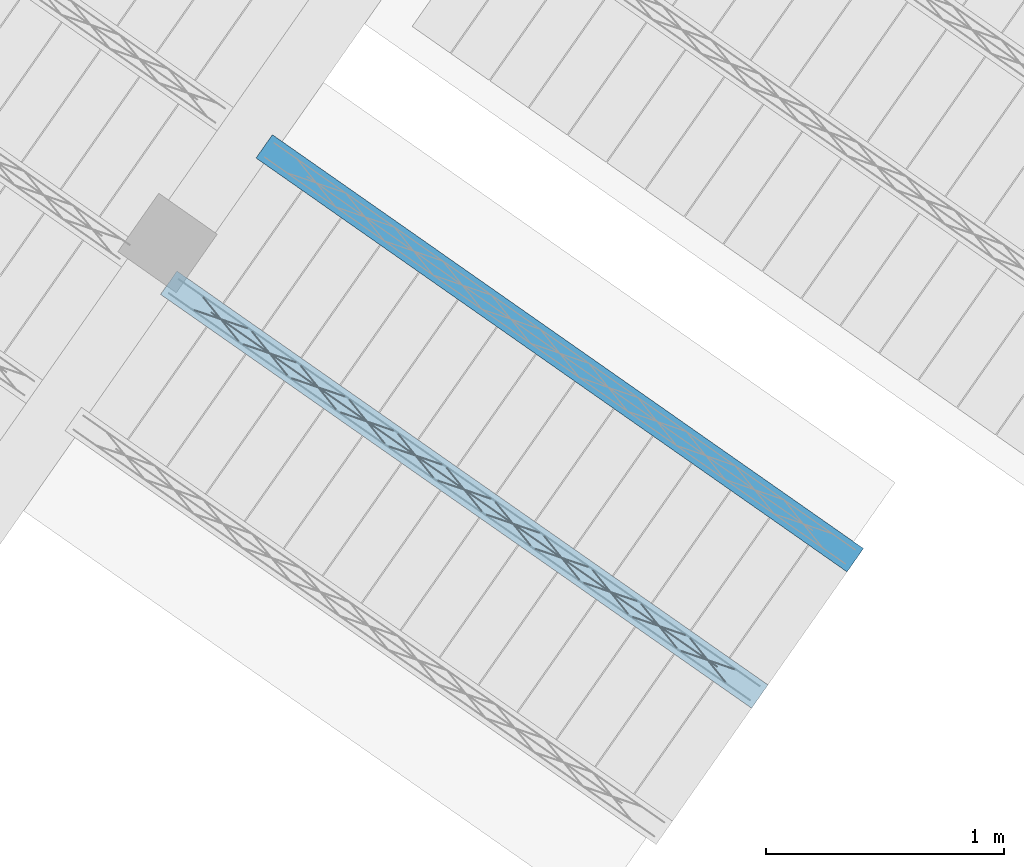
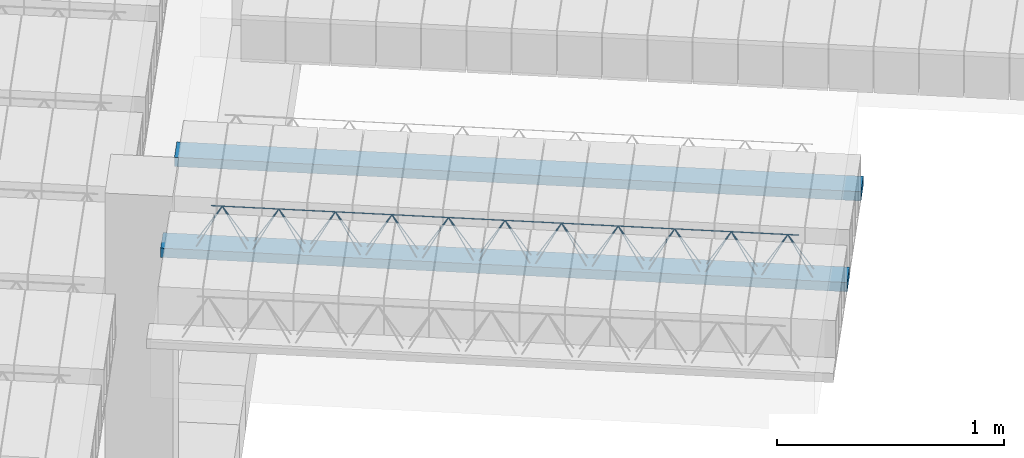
# One storey, part 7 of 80: 2 beams.
"""IFC2X3 building model written with IfcOpenShell, lengths in metres."""

from ifc_helpers import new_model, entity, si_unit, converted_unit, derived_unit, direction, frame, frame_2d, origin, origin_2d_with_axis, place, context, subcontext, project, spatial, rectangle, circle, extrude, material, type_object, element, save


model = new_model("IFC2X3")

# Units and contexts
model_context = context("Model", 3, precision=1e-05, world=origin(), true_north=direction((6.123031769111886e-17, 1.0)))
body_context = subcontext(model_context, "Body", "Model", "MODEL_VIEW")
ifc_project = project(units=[si_unit("LENGTHUNIT", "METRE"), si_unit("AREAUNIT", "SQUARE_METRE"), si_unit("VOLUMEUNIT", "CUBIC_METRE"), converted_unit("PLANEANGLEUNIT", "DEGREE", entity("IfcPlaneAngleMeasure", 0.017453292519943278), si_unit("PLANEANGLEUNIT", "RADIAN"), dimensions=[0, 0, 0, 0, 0, 0, 0]), si_unit("MASSUNIT", "GRAM", prefix="KILO"), derived_unit("MASSDENSITYUNIT", [(si_unit("MASSUNIT", "GRAM", prefix="KILO"), 1), (si_unit("LENGTHUNIT", "METRE"), -3)]), derived_unit("IONCONCENTRATIONUNIT", [(si_unit("MASSUNIT", "GRAM", prefix="KILO"), 1), (si_unit("LENGTHUNIT", "METRE"), -3)]), derived_unit("MOMENTOFINERTIAUNIT", [(si_unit("LENGTHUNIT", "METRE"), 4)]), si_unit("TIMEUNIT", "SECOND"), si_unit("FREQUENCYUNIT", "HERTZ"), si_unit("THERMODYNAMICTEMPERATUREUNIT", "DEGREE_CELSIUS"), derived_unit("THERMALTRANSMITTANCEUNIT", [(si_unit("MASSUNIT", "GRAM", prefix="KILO"), 1), (si_unit("THERMODYNAMICTEMPERATUREUNIT", "KELVIN"), -1), (si_unit("TIMEUNIT", "SECOND"), -3)]), derived_unit("THERMALCONDUCTANCEUNIT", [(si_unit("MASSUNIT", "GRAM", prefix="KILO"), 1), (si_unit("THERMODYNAMICTEMPERATUREUNIT", "KELVIN"), -1), (si_unit("TIMEUNIT", "SECOND"), -3), (si_unit("LENGTHUNIT", "METRE"), 1)]), derived_unit("VOLUMETRICFLOWRATEUNIT", [(si_unit("LENGTHUNIT", "METRE", prefix="DECI"), 3), (si_unit("TIMEUNIT", "SECOND"), -1)]), derived_unit("MASSFLOWRATEUNIT", [(si_unit("MASSUNIT", "GRAM", prefix="KILO"), 1), (si_unit("TIMEUNIT", "SECOND"), -1)]), derived_unit("ROTATIONALFREQUENCYUNIT", [(si_unit("TIMEUNIT", "SECOND"), -1)]), si_unit("ELECTRICCURRENTUNIT", "AMPERE"), si_unit("ELECTRICVOLTAGEUNIT", "VOLT"), si_unit("POWERUNIT", "WATT"), si_unit("FORCEUNIT", "NEWTON", prefix="KILO"), si_unit("ILLUMINANCEUNIT", "LUX"), si_unit("LUMINOUSFLUXUNIT", "LUMEN"), si_unit("LUMINOUSINTENSITYUNIT", "CANDELA"), si_unit("ENERGYUNIT", "JOULE"), derived_unit("USERDEFINED", [(si_unit("MASSUNIT", "GRAM", prefix="KILO"), -1), (si_unit("LENGTHUNIT", "METRE"), -2), (si_unit("TIMEUNIT", "SECOND"), 3), (si_unit("LUMINOUSFLUXUNIT", "LUMEN"), 1)]), derived_unit("USERDEFINED", [(si_unit("MASSUNIT", "GRAM", prefix="KILO"), 1), (si_unit("TIMEUNIT", "SECOND"), -3), (si_unit("LENGTHUNIT", "METRE"), 3), (si_unit("ELECTRICCURRENTUNIT", "AMPERE"), -2)]), derived_unit("SOUNDPOWERUNIT", [(si_unit("MASSUNIT", "GRAM", prefix="KILO"), 1), (si_unit("TIMEUNIT", "SECOND"), -3), (si_unit("LENGTHUNIT", "METRE"), 2)]), derived_unit("SOUNDPRESSUREUNIT", [(si_unit("MASSUNIT", "GRAM", prefix="KILO"), 1), (si_unit("LENGTHUNIT", "METRE"), -1), (si_unit("TIMEUNIT", "SECOND"), -2)]), derived_unit("LINEARVELOCITYUNIT", [(si_unit("LENGTHUNIT", "METRE"), 1), (si_unit("TIMEUNIT", "SECOND"), -1)]), si_unit("PRESSUREUNIT", "PASCAL"), derived_unit("USERDEFINED", [(si_unit("MASSUNIT", "GRAM", prefix="KILO"), 1), (si_unit("LENGTHUNIT", "METRE"), -2), (si_unit("TIMEUNIT", "SECOND"), -2)]), derived_unit("LINEARFORCEUNIT", [(si_unit("MASSUNIT", "GRAM", prefix="KILO"), 1), (si_unit("TIMEUNIT", "SECOND"), -2)]), derived_unit("PLANARFORCEUNIT", [(si_unit("MASSUNIT", "GRAM", prefix="KILO"), 1), (si_unit("LENGTHUNIT", "METRE"), -1), (si_unit("TIMEUNIT", "SECOND"), -2)]), derived_unit("SPECIFICHEATCAPACITYUNIT", [(si_unit("THERMODYNAMICTEMPERATUREUNIT", "KELVIN"), -1), (si_unit("LENGTHUNIT", "METRE"), 2), (si_unit("TIMEUNIT", "SECOND"), -2)]), derived_unit("HEATFLUXDENSITYUNIT", [(si_unit("MASSUNIT", "GRAM", prefix="KILO"), 1), (si_unit("TIMEUNIT", "SECOND"), -3)]), derived_unit("HEATINGVALUEUNIT", [(si_unit("LENGTHUNIT", "METRE"), 2), (si_unit("TIMEUNIT", "SECOND"), -2)]), derived_unit("VAPORPERMEABILITYUNIT", [(si_unit("LENGTHUNIT", "METRE"), -1), (si_unit("TIMEUNIT", "SECOND"), 1)]), derived_unit("DYNAMICVISCOSITYUNIT", [(si_unit("MASSUNIT", "GRAM", prefix="KILO"), 1), (si_unit("TIMEUNIT", "SECOND"), -1), (si_unit("LENGTHUNIT", "METRE"), -1)]), derived_unit("THERMALEXPANSIONCOEFFICIENTUNIT", [(si_unit("THERMODYNAMICTEMPERATUREUNIT", "KELVIN"), -1)]), derived_unit("MODULUSOFELASTICITYUNIT", [(si_unit("MASSUNIT", "GRAM", prefix="KILO"), 1), (si_unit("LENGTHUNIT", "METRE"), -1), (si_unit("TIMEUNIT", "SECOND"), -2)]), derived_unit("ISOTHERMALMOISTURECAPACITYUNIT", [(si_unit("MASSUNIT", "GRAM", prefix="KILO"), -1), (si_unit("LENGTHUNIT", "METRE"), 3)]), derived_unit("MOISTUREDIFFUSIVITYUNIT", [(si_unit("TIMEUNIT", "SECOND"), -1), (si_unit("LENGTHUNIT", "METRE"), 2)]), derived_unit("MASSPERLENGTHUNIT", [(si_unit("MASSUNIT", "GRAM", prefix="KILO"), 1), (si_unit("LENGTHUNIT", "METRE"), -1)]), derived_unit("THERMALRESISTANCEUNIT", [(si_unit("MASSUNIT", "GRAM", prefix="KILO"), -1), (si_unit("TIMEUNIT", "SECOND"), 3), (si_unit("THERMODYNAMICTEMPERATUREUNIT", "KELVIN"), 1)]), derived_unit("ACCELERATIONUNIT", [(si_unit("LENGTHUNIT", "METRE"), 1), (si_unit("TIMEUNIT", "SECOND"), -2)]), derived_unit("ANGULARVELOCITYUNIT", [(si_unit("TIMEUNIT", "SECOND"), -1), (si_unit("PLANEANGLEUNIT", "RADIAN"), 1)]), derived_unit("LINEARSTIFFNESSUNIT", [(si_unit("MASSUNIT", "GRAM", prefix="KILO"), 1), (si_unit("TIMEUNIT", "SECOND"), -2)]), derived_unit("WARPINGCONSTANTUNIT", [(si_unit("LENGTHUNIT", "METRE"), 6)]), derived_unit("LINEARMOMENTUNIT", [(si_unit("MASSUNIT", "GRAM", prefix="KILO"), 1), (si_unit("LENGTHUNIT", "METRE"), 1), (si_unit("TIMEUNIT", "SECOND"), -2)]), derived_unit("TORQUEUNIT", [(si_unit("MASSUNIT", "GRAM", prefix="KILO"), 1), (si_unit("LENGTHUNIT", "METRE"), 2), (si_unit("TIMEUNIT", "SECOND"), -2)])], contexts=[model_context])

# Site, building, storey
site_placement = place(None, origin())
site = spatial("IfcSite", under=ifc_project, at=site_placement, Name="Default", CompositionType="ELEMENT")
building_placement = place(site_placement, origin())
building = spatial("IfcBuilding", under=site, at=building_placement, CompositionType="ELEMENT")
storey_placement = place(building_placement, frame((0.0, 0.0, 95.94)))
storey = spatial("IfcBuildingStorey", under=building, at=storey_placement, Name="PB", CompositionType="ELEMENT", Elevation=95.94)

# Beams
beam_type = type_object("IfcBeamType", Name="Vigueta 2 (Paño 13) (Mf = 10.31)", PredefinedType="JOIST")
beam_1_placement = place(storey_placement, origin())
element("IfcBeam", 1, at=beam_1_placement, inside=storey, type_object=beam_type, Name="Vigueta 2 (Paño 13) (Mf = 10.31)", ObjectType="Mf = 10.31", context=body_context, shape_type="SweptSolid", body=[
    extrude(rectangle(XDim=3.0351844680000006, YDim=0.12000000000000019, at=frame_2d((2.220446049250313e-16, 2.706168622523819e-16), x_axis=(1.0, 0.0))), frame((3.392786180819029, 1.2259750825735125, 3.2799999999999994), z_axis=(0.0, 0.0, 1.0), x_axis=(0.8191520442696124, -0.5735764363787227, 0.0)), (0.0, 0.0, 1.0), 0.04999999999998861),
    extrude(circle(Radius=0.0025, at=origin_2d_with_axis()), frame((4.595616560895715, 0.33979629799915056, 3.3049999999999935), z_axis=(-0.8191520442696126, 0.5735764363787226, 0.0), x_axis=(-0.5735764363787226, -0.8191520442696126, 0.0)), (0.0, 0.0, 1.0), 2.9871844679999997),
    extrude(circle(Radius=0.0025, at=origin_2d_with_axis()), frame((2.3278885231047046, 1.9716244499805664, 3.5299999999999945), z_axis=(0.8191520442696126, -0.5735764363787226, 0.0), x_axis=(-0.5735764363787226, -0.8191520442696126, 0.0)), (0.0, 0.0, 1.0), 2.5999999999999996),
    extrude(circle(Radius=0.0025, at=origin_2d_with_axis()), frame((4.498471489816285, 0.4078180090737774, 3.3049999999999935), z_axis=(-0.3145304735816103, 0.389334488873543, 0.8657304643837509), x_axis=(-0.7778747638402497, -0.6284193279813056, 0.0)), (0.0, 0.0, 1.0), 0.2598961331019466),
    extrude(circle(Radius=0.0025, at=origin_2d_with_axis()), frame((4.293683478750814, 0.5512121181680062, 3.3049999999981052), z_axis=(0.47343050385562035, -0.1624017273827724, 0.8657304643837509), x_axis=(-0.3244721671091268, -0.9458952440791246, 0.0)), (0.0, 0.0, 1.0), 0.25989613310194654),
    extrude(circle(Radius=0.0025, at=origin_2d_with_axis()), frame((4.293683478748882, 0.551212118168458, 3.3049999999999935), z_axis=(-0.3145304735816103, 0.389334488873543, 0.8657304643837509), x_axis=(-0.7778747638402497, -0.6284193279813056, 0.0)), (0.0, 0.0, 1.0), 0.2598961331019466),
    extrude(circle(Radius=0.0025, at=origin_2d_with_axis()), frame((4.088895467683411, 0.6946062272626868, 3.3049999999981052), z_axis=(0.47343050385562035, -0.1624017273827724, 0.8657304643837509), x_axis=(-0.3244721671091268, -0.9458952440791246, 0.0)), (0.0, 0.0, 1.0), 0.25989613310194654),
    extrude(circle(Radius=0.0025, at=origin_2d_with_axis()), frame((4.088895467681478, 0.6946062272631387, 3.3049999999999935), z_axis=(-0.3145304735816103, 0.389334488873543, 0.8657304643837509), x_axis=(-0.7778747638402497, -0.6284193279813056, 0.0)), (0.0, 0.0, 1.0), 0.2598961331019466),
    extrude(circle(Radius=0.0025, at=origin_2d_with_axis()), frame((3.884107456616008, 0.8380003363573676, 3.3049999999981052), z_axis=(0.47343050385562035, -0.1624017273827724, 0.8657304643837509), x_axis=(-0.3244721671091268, -0.9458952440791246, 0.0)), (0.0, 0.0, 1.0), 0.25989613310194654),
    extrude(circle(Radius=0.0025, at=origin_2d_with_axis()), frame((3.8841074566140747, 0.8380003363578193, 3.3049999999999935), z_axis=(-0.3145304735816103, 0.389334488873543, 0.8657304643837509), x_axis=(-0.7778747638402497, -0.6284193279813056, 0.0)), (0.0, 0.0, 1.0), 0.2598961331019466),
    extrude(circle(Radius=0.0025, at=origin_2d_with_axis()), frame((3.6793194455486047, 0.9813944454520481, 3.3049999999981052), z_axis=(0.47343050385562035, -0.1624017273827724, 0.8657304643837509), x_axis=(-0.3244721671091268, -0.9458952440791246, 0.0)), (0.0, 0.0, 1.0), 0.25989613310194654),
    extrude(circle(Radius=0.0025, at=origin_2d_with_axis()), frame((3.6793194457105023, 0.9813944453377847, 3.3049999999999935), z_axis=(-0.3145304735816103, 0.389334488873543, 0.8657304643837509), x_axis=(-0.7778747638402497, -0.6284193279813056, 0.0)), (0.0, 0.0, 1.0), 0.2598961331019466),
    extrude(circle(Radius=0.0025, at=origin_2d_with_axis()), frame((3.474531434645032, 1.1247885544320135, 3.3049999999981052), z_axis=(0.47343050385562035, -0.1624017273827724, 0.8657304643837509), x_axis=(-0.3244721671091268, -0.9458952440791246, 0.0)), (0.0, 0.0, 1.0), 0.25989613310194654),
    extrude(circle(Radius=0.0025, at=origin_2d_with_axis()), frame((3.4745314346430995, 1.1247885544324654, 3.3049999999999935), z_axis=(-0.3145304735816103, 0.389334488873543, 0.8657304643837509), x_axis=(-0.7778747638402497, -0.6284193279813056, 0.0)), (0.0, 0.0, 1.0), 0.2598961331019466),
    extrude(circle(Radius=0.0025, at=origin_2d_with_axis()), frame((3.2697434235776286, 1.268182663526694, 3.3049999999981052), z_axis=(0.47343050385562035, -0.1624017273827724, 0.8657304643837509), x_axis=(-0.3244721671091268, -0.9458952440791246, 0.0)), (0.0, 0.0, 1.0), 0.25989613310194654),
    extrude(circle(Radius=0.0025, at=origin_2d_with_axis()), frame((3.269743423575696, 1.2681826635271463, 3.3049999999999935), z_axis=(-0.3145304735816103, 0.389334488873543, 0.8657304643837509), x_axis=(-0.7778747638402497, -0.6284193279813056, 0.0)), (0.0, 0.0, 1.0), 0.2598961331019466),
    extrude(circle(Radius=0.0025, at=origin_2d_with_axis()), frame((3.0649554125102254, 1.4115767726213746, 3.3049999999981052), z_axis=(0.47343050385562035, -0.1624017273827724, 0.8657304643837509), x_axis=(-0.3244721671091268, -0.9458952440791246, 0.0)), (0.0, 0.0, 1.0), 0.25989613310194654),
    extrude(circle(Radius=0.0025, at=origin_2d_with_axis()), frame((3.064955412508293, 1.4115767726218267, 3.3049999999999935), z_axis=(-0.3145304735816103, 0.389334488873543, 0.8657304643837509), x_axis=(-0.7778747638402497, -0.6284193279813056, 0.0)), (0.0, 0.0, 1.0), 0.2598961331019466),
    extrude(circle(Radius=0.0025, at=origin_2d_with_axis()), frame((2.8601674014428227, 1.5549708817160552, 3.3049999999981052), z_axis=(0.47343050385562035, -0.1624017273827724, 0.8657304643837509), x_axis=(-0.3244721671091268, -0.9458952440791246, 0.0)), (0.0, 0.0, 1.0), 0.25989613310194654),
    extrude(circle(Radius=0.0025, at=origin_2d_with_axis()), frame((2.8601674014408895, 1.554970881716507, 3.3049999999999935), z_axis=(-0.3145304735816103, 0.389334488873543, 0.8657304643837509), x_axis=(-0.7778747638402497, -0.6284193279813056, 0.0)), (0.0, 0.0, 1.0), 0.2598961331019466),
    extrude(circle(Radius=0.0025, at=origin_2d_with_axis()), frame((2.65537939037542, 1.6983649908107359, 3.3049999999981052), z_axis=(0.47343050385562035, -0.1624017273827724, 0.8657304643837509), x_axis=(-0.3244721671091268, -0.9458952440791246, 0.0)), (0.0, 0.0, 1.0), 0.25989613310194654),
    extrude(circle(Radius=0.0025, at=origin_2d_with_axis()), frame((2.655379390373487, 1.6983649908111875, 3.3049999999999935), z_axis=(-0.3145304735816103, 0.389334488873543, 0.8657304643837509), x_axis=(-0.7778747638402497, -0.6284193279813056, 0.0)), (0.0, 0.0, 1.0), 0.2598961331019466),
    extrude(circle(Radius=0.0025, at=origin_2d_with_axis()), frame((2.450591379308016, 1.8417590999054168, 3.3049999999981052), z_axis=(0.47343050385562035, -0.1624017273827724, 0.8657304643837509), x_axis=(-0.3244721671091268, -0.9458952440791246, 0.0)), (0.0, 0.0, 1.0), 0.25989613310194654),
    extrude(circle(Radius=0.0025, at=origin_2d_with_axis()), frame((2.450591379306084, 1.8417590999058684, 3.3049999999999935), z_axis=(-0.3145304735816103, 0.389334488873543, 0.8657304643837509), x_axis=(-0.7778747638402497, -0.6284193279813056, 0.0)), (0.0, 0.0, 1.0), 0.2598961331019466),
    extrude(circle(Radius=0.0025, at=origin_2d_with_axis()), frame((2.245803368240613, 1.9851532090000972, 3.3049999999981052), z_axis=(0.47343050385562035, -0.1624017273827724, 0.8657304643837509), x_axis=(-0.3244721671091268, -0.9458952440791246, 0.0)), (0.0, 0.0, 1.0), 0.25989613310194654),
    extrude(circle(Radius=0.0025, at=origin_2d_with_axis()), frame((4.6369140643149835, 0.39877524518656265, 3.3049999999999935), z_axis=(-0.8191520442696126, 0.5735764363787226, 0.0), x_axis=(-0.5735764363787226, -0.8191520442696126, 0.0)), (0.0, 0.0, 1.0), 2.9871844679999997),
    extrude(circle(Radius=0.0025, at=origin_2d_with_axis()), frame((4.539768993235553, 0.4667969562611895, 3.3049999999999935), z_axis=(-0.47343050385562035, 0.1624017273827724, 0.8657304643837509), x_axis=(-0.3244721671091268, -0.9458952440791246, 0.0)), (0.0, 0.0, 1.0), 0.25989613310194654),
    extrude(circle(Radius=0.0025, at=origin_2d_with_axis()), frame((4.334980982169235, 0.6101910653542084, 3.3049999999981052), z_axis=(0.3145304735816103, -0.389334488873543, 0.8657304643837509), x_axis=(-0.7778747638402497, -0.6284193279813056, 0.0)), (0.0, 0.0, 1.0), 0.2598961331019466),
    extrude(circle(Radius=0.0025, at=origin_2d_with_axis()), frame((4.334980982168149, 0.6101910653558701, 3.3049999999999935), z_axis=(-0.47343050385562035, 0.1624017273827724, 0.8657304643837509), x_axis=(-0.3244721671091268, -0.9458952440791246, 0.0)), (0.0, 0.0, 1.0), 0.25989613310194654),
    extrude(circle(Radius=0.0025, at=origin_2d_with_axis()), frame((4.130192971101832, 0.753585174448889, 3.3049999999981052), z_axis=(0.3145304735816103, -0.389334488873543, 0.8657304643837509), x_axis=(-0.7778747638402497, -0.6284193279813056, 0.0)), (0.0, 0.0, 1.0), 0.2598961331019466),
    extrude(circle(Radius=0.0025, at=origin_2d_with_axis()), frame((4.130192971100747, 0.7535851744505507, 3.3049999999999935), z_axis=(-0.47343050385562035, 0.1624017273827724, 0.8657304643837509), x_axis=(-0.3244721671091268, -0.9458952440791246, 0.0)), (0.0, 0.0, 1.0), 0.25989613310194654),
    extrude(circle(Radius=0.0025, at=origin_2d_with_axis()), frame((3.9254049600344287, 0.8969792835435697, 3.3049999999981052), z_axis=(0.3145304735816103, -0.389334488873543, 0.8657304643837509), x_axis=(-0.7778747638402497, -0.6284193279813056, 0.0)), (0.0, 0.0, 1.0), 0.2598961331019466),
    extrude(circle(Radius=0.0025, at=origin_2d_with_axis()), frame((3.925404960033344, 0.8969792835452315, 3.3049999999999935), z_axis=(-0.47343050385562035, 0.1624017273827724, 0.8657304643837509), x_axis=(-0.3244721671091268, -0.9458952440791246, 0.0)), (0.0, 0.0, 1.0), 0.25989613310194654),
    extrude(circle(Radius=0.0025, at=origin_2d_with_axis()), frame((3.7206169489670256, 1.0403733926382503, 3.3049999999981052), z_axis=(0.3145304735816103, -0.389334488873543, 0.8657304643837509), x_axis=(-0.7778747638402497, -0.6284193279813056, 0.0)), (0.0, 0.0, 1.0), 0.2598961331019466),
    extrude(circle(Radius=0.0025, at=origin_2d_with_axis()), frame((3.7206169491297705, 1.0403733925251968, 3.3049999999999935), z_axis=(-0.47343050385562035, 0.1624017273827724, 0.8657304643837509), x_axis=(-0.3244721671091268, -0.9458952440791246, 0.0)), (0.0, 0.0, 1.0), 0.25989613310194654),
    extrude(circle(Radius=0.0025, at=origin_2d_with_axis()), frame((3.5158289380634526, 1.1837675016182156, 3.3049999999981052), z_axis=(0.3145304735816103, -0.389334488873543, 0.8657304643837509), x_axis=(-0.7778747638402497, -0.6284193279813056, 0.0)), (0.0, 0.0, 1.0), 0.2598961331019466),
    extrude(circle(Radius=0.0025, at=origin_2d_with_axis()), frame((3.5158289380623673, 1.1837675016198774, 3.3049999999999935), z_axis=(-0.47343050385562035, 0.1624017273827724, 0.8657304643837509), x_axis=(-0.3244721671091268, -0.9458952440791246, 0.0)), (0.0, 0.0, 1.0), 0.25989613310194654),
    extrude(circle(Radius=0.0025, at=origin_2d_with_axis()), frame((3.3110409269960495, 1.327161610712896, 3.3049999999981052), z_axis=(0.3145304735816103, -0.389334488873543, 0.8657304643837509), x_axis=(-0.7778747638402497, -0.6284193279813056, 0.0)), (0.0, 0.0, 1.0), 0.2598961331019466),
    extrude(circle(Radius=0.0025, at=origin_2d_with_axis()), frame((3.311040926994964, 1.3271616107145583, 3.3049999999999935), z_axis=(-0.47343050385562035, 0.1624017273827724, 0.8657304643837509), x_axis=(-0.3244721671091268, -0.9458952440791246, 0.0)), (0.0, 0.0, 1.0), 0.25989613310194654),
    extrude(circle(Radius=0.0025, at=origin_2d_with_axis()), frame((3.1062529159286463, 1.470555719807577, 3.3049999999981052), z_axis=(0.3145304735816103, -0.389334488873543, 0.8657304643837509), x_axis=(-0.7778747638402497, -0.6284193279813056, 0.0)), (0.0, 0.0, 1.0), 0.2598961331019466),
    extrude(circle(Radius=0.0025, at=origin_2d_with_axis()), frame((3.1062529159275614, 1.4705557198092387, 3.3049999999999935), z_axis=(-0.47343050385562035, 0.1624017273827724, 0.8657304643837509), x_axis=(-0.3244721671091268, -0.9458952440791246, 0.0)), (0.0, 0.0, 1.0), 0.25989613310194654),
    extrude(circle(Radius=0.0025, at=origin_2d_with_axis()), frame((2.9014649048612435, 1.6139498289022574, 3.3049999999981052), z_axis=(0.3145304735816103, -0.389334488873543, 0.8657304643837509), x_axis=(-0.7778747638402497, -0.6284193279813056, 0.0)), (0.0, 0.0, 1.0), 0.2598961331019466),
    extrude(circle(Radius=0.0025, at=origin_2d_with_axis()), frame((2.9014649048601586, 1.613949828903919, 3.3049999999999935), z_axis=(-0.47343050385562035, 0.1624017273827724, 0.8657304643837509), x_axis=(-0.3244721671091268, -0.9458952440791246, 0.0)), (0.0, 0.0, 1.0), 0.25989613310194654),
    extrude(circle(Radius=0.0025, at=origin_2d_with_axis()), frame((2.696676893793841, 1.7573439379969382, 3.3049999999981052), z_axis=(0.3145304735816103, -0.389334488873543, 0.8657304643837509), x_axis=(-0.7778747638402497, -0.6284193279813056, 0.0)), (0.0, 0.0, 1.0), 0.2598961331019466),
    extrude(circle(Radius=0.0025, at=origin_2d_with_axis()), frame((2.696676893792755, 1.7573439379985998, 3.3049999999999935), z_axis=(-0.47343050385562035, 0.1624017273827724, 0.8657304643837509), x_axis=(-0.3244721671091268, -0.9458952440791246, 0.0)), (0.0, 0.0, 1.0), 0.25989613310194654),
    extrude(circle(Radius=0.0025, at=origin_2d_with_axis()), frame((2.4918888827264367, 1.900738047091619, 3.3049999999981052), z_axis=(0.3145304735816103, -0.389334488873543, 0.8657304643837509), x_axis=(-0.7778747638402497, -0.6284193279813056, 0.0)), (0.0, 0.0, 1.0), 0.2598961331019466),
    extrude(circle(Radius=0.0025, at=origin_2d_with_axis()), frame((2.491888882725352, 1.9007380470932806, 3.3049999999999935), z_axis=(-0.47343050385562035, 0.1624017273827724, 0.8657304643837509), x_axis=(-0.3244721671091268, -0.9458952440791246, 0.0)), (0.0, 0.0, 1.0), 0.25989613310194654),
    extrude(circle(Radius=0.0025, at=origin_2d_with_axis()), frame((2.287100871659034, 2.0441321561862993, 3.3049999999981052), z_axis=(0.3145304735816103, -0.389334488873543, 0.8657304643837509), x_axis=(-0.7778747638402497, -0.6284193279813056, 0.0)), (0.0, 0.0, 1.0), 0.2598961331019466),
])
ifc_material = material(Name="Hormigón armado")
beam_2_placement = place(storey_placement, origin())
element("IfcBeam", 2, at=beam_2_placement, inside=storey, material=ifc_material, Name="238605", context=body_context, shape_type="SweptSolid", body=[
    extrude(rectangle(XDim=0.04999999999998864, YDim=0.11999999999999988, at=frame_2d((0.0, 3.7470027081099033e-16), x_axis=(1.0, 0.0))), frame((2.551150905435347, 2.6698366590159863, 3.3049999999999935), z_axis=(0.8191520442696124, -0.5735764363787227, 0.0), x_axis=(0.0, 0.0, -1.0)), (0.0, 0.0, 1.0), 3.035184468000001),
])

save(model, "model.ifc")
